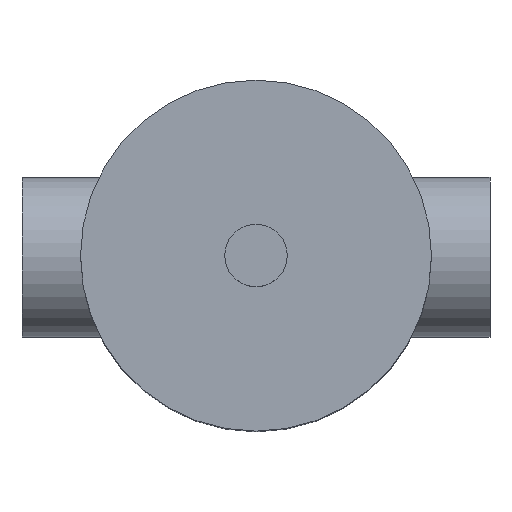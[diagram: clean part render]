
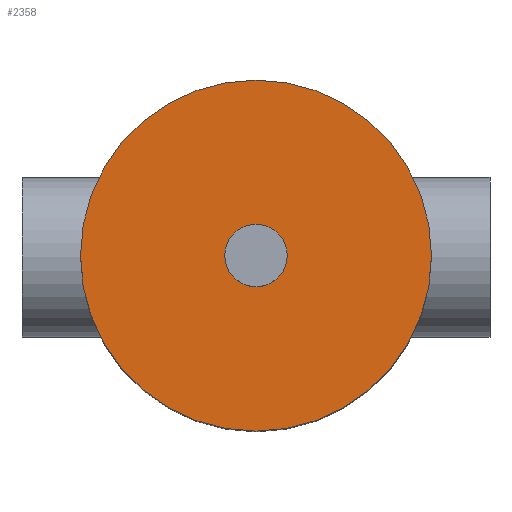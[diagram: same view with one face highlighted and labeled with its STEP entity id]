
A CAD part, top view. The second image highlights one B-rep face of the part: STEP entity #2358.
In plain terms, the highlighted planar face has unit normal (0, 0, 1).
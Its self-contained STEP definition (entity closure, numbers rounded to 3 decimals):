
#2274 = CYLINDRICAL_SURFACE('',#2275,45.);
#2275 = AXIS2_PLACEMENT_3D('',#2276,#2277,#2278);
#2276 = CARTESIAN_POINT('',(0.,0.,132.5));
#2277 = DIRECTION('',(0.,0.,1.));
#2278 = DIRECTION('',(1.,0.,0.));
#2307 = EDGE_CURVE('',#2308,#2308,#2310,.T.);
#2308 = VERTEX_POINT('',#2309);
#2309 = CARTESIAN_POINT('',(45.,0.,238.5));
#2310 = SURFACE_CURVE('',#2311,(#2316,#2323),.PCURVE_S1.);
#2311 = CIRCLE('',#2312,45.);
#2312 = AXIS2_PLACEMENT_3D('',#2313,#2314,#2315);
#2313 = CARTESIAN_POINT('',(0.,0.,238.5));
#2314 = DIRECTION('',(0.,0.,1.));
#2315 = DIRECTION('',(1.,0.,0.));
#2316 = PCURVE('',#2274,#2317);
#2317 = DEFINITIONAL_REPRESENTATION('',(#2318),#2322);
#2318 = LINE('',#2319,#2320);
#2319 = CARTESIAN_POINT('',(0.,106.));
#2320 = VECTOR('',#2321,1.);
#2321 = DIRECTION('',(1.,0.));
#2322 = ( GEOMETRIC_REPRESENTATION_CONTEXT(2) 
PARAMETRIC_REPRESENTATION_CONTEXT() REPRESENTATION_CONTEXT('2D SPACE',''
  ) );
#2323 = PCURVE('',#2324,#2329);
#2324 = PLANE('',#2325);
#2325 = AXIS2_PLACEMENT_3D('',#2326,#2327,#2328);
#2326 = CARTESIAN_POINT('',(0.,0.,238.5));
#2327 = DIRECTION('',(0.,0.,1.));
#2328 = DIRECTION('',(1.,0.,0.));
#2329 = DEFINITIONAL_REPRESENTATION('',(#2330),#2334);
#2330 = CIRCLE('',#2331,45.);
#2331 = AXIS2_PLACEMENT_2D('',#2332,#2333);
#2332 = CARTESIAN_POINT('',(0.,0.));
#2333 = DIRECTION('',(1.,0.));
#2334 = ( GEOMETRIC_REPRESENTATION_CONTEXT(2) 
PARAMETRIC_REPRESENTATION_CONTEXT() REPRESENTATION_CONTEXT('2D SPACE',''
  ) );
#2358 = ADVANCED_FACE('',(#2359,#2362),#2324,.T.);
#2359 = FACE_BOUND('',#2360,.T.);
#2360 = EDGE_LOOP('',(#2361));
#2361 = ORIENTED_EDGE('',*,*,#2307,.T.);
#2362 = FACE_BOUND('',#2363,.T.);
#2363 = EDGE_LOOP('',(#2364));
#2364 = ORIENTED_EDGE('',*,*,#2365,.F.);
#2365 = EDGE_CURVE('',#2366,#2366,#2368,.T.);
#2366 = VERTEX_POINT('',#2367);
#2367 = CARTESIAN_POINT('',(8.,0.,238.5));
#2368 = SURFACE_CURVE('',#2369,(#2374,#2381),.PCURVE_S1.);
#2369 = CIRCLE('',#2370,8.);
#2370 = AXIS2_PLACEMENT_3D('',#2371,#2372,#2373);
#2371 = CARTESIAN_POINT('',(0.,0.,238.5));
#2372 = DIRECTION('',(0.,0.,1.));
#2373 = DIRECTION('',(1.,0.,-0.));
#2374 = PCURVE('',#2324,#2375);
#2375 = DEFINITIONAL_REPRESENTATION('',(#2376),#2380);
#2376 = CIRCLE('',#2377,8.);
#2377 = AXIS2_PLACEMENT_2D('',#2378,#2379);
#2378 = CARTESIAN_POINT('',(0.,0.));
#2379 = DIRECTION('',(1.,0.));
#2380 = ( GEOMETRIC_REPRESENTATION_CONTEXT(2) 
PARAMETRIC_REPRESENTATION_CONTEXT() REPRESENTATION_CONTEXT('2D SPACE',''
  ) );
#2381 = PCURVE('',#2382,#2387);
#2382 = CYLINDRICAL_SURFACE('',#2383,8.);
#2383 = AXIS2_PLACEMENT_3D('',#2384,#2385,#2386);
#2384 = CARTESIAN_POINT('',(0.,0.,36.));
#2385 = DIRECTION('',(0.,0.,1.));
#2386 = DIRECTION('',(1.,0.,0.));
#2387 = DEFINITIONAL_REPRESENTATION('',(#2388),#2392);
#2388 = LINE('',#2389,#2390);
#2389 = CARTESIAN_POINT('',(0.,202.5));
#2390 = VECTOR('',#2391,1.);
#2391 = DIRECTION('',(1.,0.));
#2392 = ( GEOMETRIC_REPRESENTATION_CONTEXT(2) 
PARAMETRIC_REPRESENTATION_CONTEXT() REPRESENTATION_CONTEXT('2D SPACE',''
  ) );
